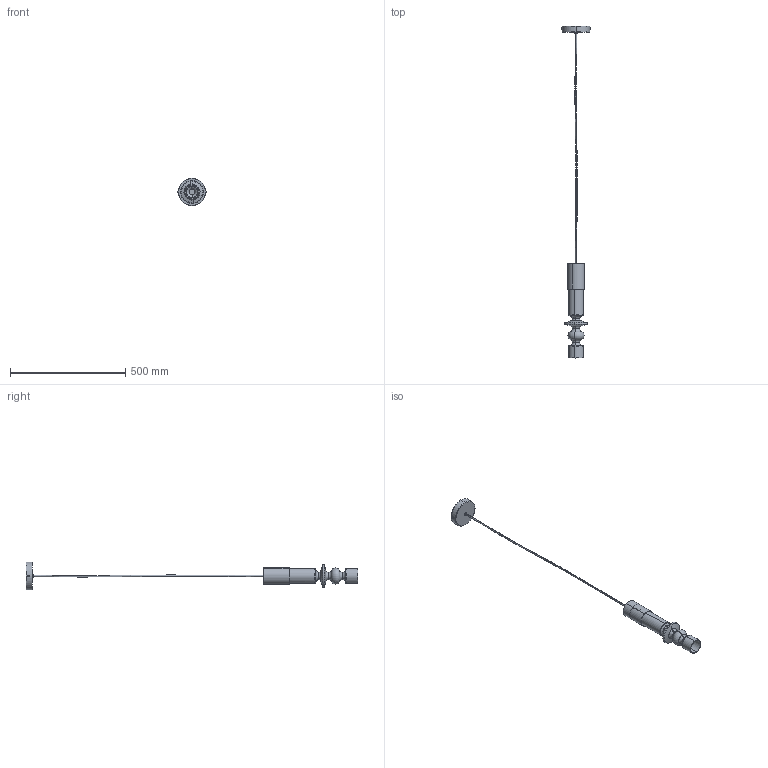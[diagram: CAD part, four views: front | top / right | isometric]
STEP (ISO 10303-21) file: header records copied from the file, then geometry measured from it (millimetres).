
FILE_DESCRIPTION (( 'STEP AP203' ), '1' );
FILE_NAME ('Filamento Vertical 41, Shape1.STEP', '2026-04-30T09:31:58', ( '' ), ( '' ), 'SwSTEP 2.0', 'SolidWorks 2025', '' );
FILE_SCHEMA (( 'CONFIG_CONTROL_DESIGN' ));
Length unit declared in the file: millimetre
Products named in the file (13): Viti a Testa Bombata e Cava Esagonale ISO-7380_VITE M4X12 TBCE ISO-7380 ; Filamento Vertical 41, Shape1; ATC-X21-S690-R00; ATC-A06-S012-R00 - Architetti_Default<A macchina>; Nipplo Steab 5475xx_NIPPLO M10x1 H.7 TRASP.; Vite a Testa Svasata Piana Cava Esagonale UNI-5933_VITE M3X6 TSPCE UNI-5933; Nipplo Steab 5475xx_NIPPLO M10x1 H.7 NERO; Lamp. Halopar GU10 - GZ10 Osram_LAMPADA GU10 50W 220V; ATC-X21-S603-R00; ATA-X21-S604-R00 - Architetti; ATA-A06-S000-R00 - Architetti; ATC-X21-S604-R00 - Architetti; ATA-X21-S603-R00 - Architetti
Assembly tree (14 placements, depth 4):
  Filamento Vertical 41, Shape1
    ATA-X21-S604-R00 - Architetti
      Lamp. Halopar GU10 - GZ10 Osram_LAMPADA GU10 50W 220V
      Nipplo Steab 5475xx_NIPPLO M10x1 H.7 TRASP.
      Vite a Testa Svasata Piana Cava Esagonale UNI-5933_VITE M3X6 TSPCE UNI-5933  x2
      ATC-X21-S604-R00 - Architetti
      ATC-X21-S690-R00
      ATA-A06-S000-R00 - Architetti
        Viti a Testa Bombata e Cava Esagonale ISO-7380_VITE M4X12 TBCE ISO-7380   x2
        Nipplo Steab 5475xx_NIPPLO M10x1 H.7 NERO
        ATC-A06-S012-R00 - Architetti_Default<A macchina>
    ATA-X21-S603-R00 - Architetti
      ATC-X21-S603-R00
Bounding box: 124.4 x 1442 x 120 mm (x, y, z)
Volume: 461030.2 mm3; surface area: 296988.2 mm2
Topology: 12 solids, 12 shells, 254 faces, 541 edges, 322 vertices
Faces by surface type: cylinder 85, plane 67, torus 54, cone 42, bspline 6
Entity records: 8126 total; most frequent: CARTESIAN_POINT 1828, DIRECTION 1161, ORIENTED_EDGE 918, AXIS2_PLACEMENT_3D 499, EDGE_CURVE 459, VERTEX_POINT 274, CIRCLE 268, EDGE_LOOP 253
